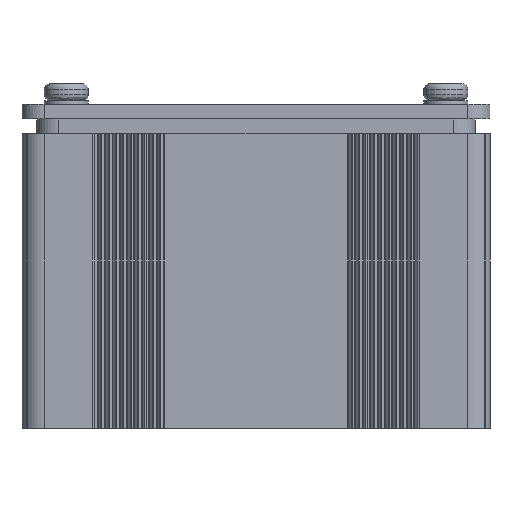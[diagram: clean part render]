
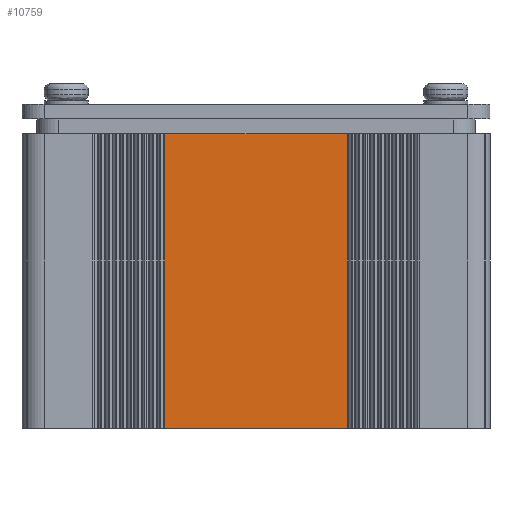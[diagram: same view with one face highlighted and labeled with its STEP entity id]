
A CAD part, front view. The second image highlights one B-rep face of the part: STEP entity #10759.
In plain terms, the highlighted planar face has unit normal (0, -1, 0).
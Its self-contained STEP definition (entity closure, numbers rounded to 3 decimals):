
#35 = EDGE_LOOP ( 'NONE', ( #578, #4471, #733, #11258 ) ) ;
#337 = VERTEX_POINT ( 'NONE', #415 ) ;
#415 = CARTESIAN_POINT ( 'NONE',  ( 1070.993, 588.18, 20. ) ) ;
#528 = CARTESIAN_POINT ( 'NONE',  ( 1095.91, 588.18, -20. ) ) ;
#567 = CARTESIAN_POINT ( 'NONE',  ( 1095.91, 588.18, 20. ) ) ;
#578 = ORIENTED_EDGE ( 'NONE', *, *, #7572, .T. ) ;
#585 = VERTEX_POINT ( 'NONE', #528 ) ;
#733 = ORIENTED_EDGE ( 'NONE', *, *, #2298, .F. ) ;
#1263 = LINE ( 'NONE', #2009, #10313 ) ;
#1572 = CARTESIAN_POINT ( 'NONE',  ( 1070.993, 588.18, 20. ) ) ;
#1673 = VECTOR ( 'NONE', #9603, 1000. ) ;
#1712 = CARTESIAN_POINT ( 'NONE',  ( 1070.993, 588.18, 20. ) ) ;
#1739 = CARTESIAN_POINT ( 'NONE',  ( 1095.91, 588.18, 20. ) ) ;
#2009 = CARTESIAN_POINT ( 'NONE',  ( 1070.993, 588.18, -20. ) ) ;
#2298 = EDGE_CURVE ( 'NONE', #337, #6362, #6568, .T. ) ;
#2579 = DIRECTION ( 'NONE',  ( 0., 1., 0. ) ) ;
#3590 = CARTESIAN_POINT ( 'NONE',  ( 1070.993, 588.18, -20. ) ) ;
#3988 = VECTOR ( 'NONE', #7674, 1000. ) ;
#3995 = LINE ( 'NONE', #5168, #1673 ) ;
#4471 = ORIENTED_EDGE ( 'NONE', *, *, #5222, .F. ) ;
#5168 = CARTESIAN_POINT ( 'NONE',  ( 1070.993, 588.18, 20. ) ) ;
#5222 = EDGE_CURVE ( 'NONE', #6362, #585, #8065, .T. ) ;
#5717 = VECTOR ( 'NONE', #6973, 1000. ) ;
#6362 = VERTEX_POINT ( 'NONE', #567 ) ;
#6568 = LINE ( 'NONE', #1572, #3988 ) ;
#6791 = AXIS2_PLACEMENT_3D ( 'NONE', #1712, #2579, #8702 ) ;
#6934 = PLANE ( 'NONE',  #6791 ) ;
#6973 = DIRECTION ( 'NONE',  ( 0., 0., -1. ) ) ;
#7355 = EDGE_CURVE ( 'NONE', #337, #7447, #3995, .T. ) ;
#7447 = VERTEX_POINT ( 'NONE', #3590 ) ;
#7572 = EDGE_CURVE ( 'NONE', #7447, #585, #1263, .T. ) ;
#7674 = DIRECTION ( 'NONE',  ( 1., 0., 0. ) ) ;
#8065 = LINE ( 'NONE', #1739, #5717 ) ;
#8702 = DIRECTION ( 'NONE',  ( 0., 0., 1. ) ) ;
#9092 = DIRECTION ( 'NONE',  ( 1., 0., 0. ) ) ;
#9603 = DIRECTION ( 'NONE',  ( 0., 0., -1. ) ) ;
#10072 = FACE_OUTER_BOUND ( 'NONE', #35, .T. ) ;
#10313 = VECTOR ( 'NONE', #9092, 1000. ) ;
#10759 = ADVANCED_FACE ( 'NONE', ( #10072 ), #6934, .F. ) ;
#11258 = ORIENTED_EDGE ( 'NONE', *, *, #7355, .T. ) ;
